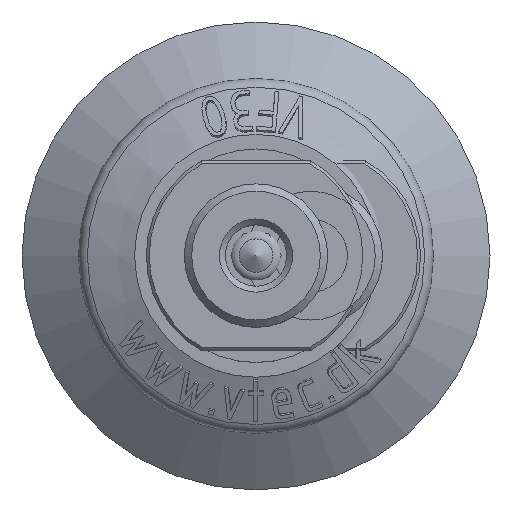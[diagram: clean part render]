
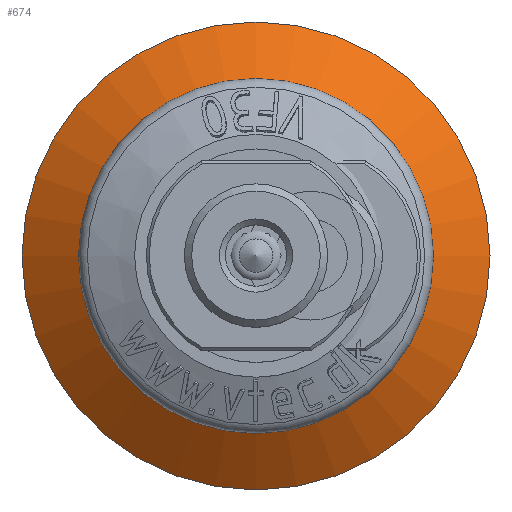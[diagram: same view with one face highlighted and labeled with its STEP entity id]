
A CAD part, top view. The second image highlights one B-rep face of the part: STEP entity #674.
In plain terms, the highlighted conical face has half-angle 53.66 degrees and reference radius 12.136 mm.
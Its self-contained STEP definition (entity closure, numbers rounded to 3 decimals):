
#674 = ADVANCED_FACE( '', ( #1093, #1094 ), #1095, .T. );
#1093 = FACE_OUTER_BOUND( '', #3626, .T. );
#1094 = FACE_BOUND( '', #3627, .T. );
#1095 = CONICAL_SURFACE( '', #3628, 12.136, 0.937 );
#3626 = EDGE_LOOP( '', ( #6112 ) );
#3627 = EDGE_LOOP( '', ( #6113 ) );
#3628 = AXIS2_PLACEMENT_3D( '', #6114, #6115, #6116 );
#6112 = ORIENTED_EDGE( '', *, *, #7410, .T. );
#6113 = ORIENTED_EDGE( '', *, *, #7411, .F. );
#6114 = CARTESIAN_POINT( '', ( 0., 0., -2.158 ) );
#6115 = DIRECTION( '', ( 0., 0., -1. ) );
#6116 = DIRECTION( '', ( -1., 0., 0. ) );
#7410 = EDGE_CURVE( '', #8239, #8239, #8240, .F. );
#7411 = EDGE_CURVE( '', #8241, #8241, #8242, .T. );
#8239 = VERTEX_POINT( '', #10698 );
#8240 = CIRCLE( '', #10699, 16. );
#8241 = VERTEX_POINT( '', #10700 );
#8242 = CIRCLE( '', #10701, 12.136 );
#10698 = CARTESIAN_POINT( '', ( -16., 0., -5. ) );
#10699 = AXIS2_PLACEMENT_3D( '', #11433, #11434, #11435 );
#10700 = CARTESIAN_POINT( '', ( 12.136, 0., -2.158 ) );
#10701 = AXIS2_PLACEMENT_3D( '', #11436, #11437, #11438 );
#11433 = CARTESIAN_POINT( '', ( 0., 0., -5. ) );
#11434 = DIRECTION( '', ( 0., 0., -1. ) );
#11435 = DIRECTION( '', ( -1., 0., 0. ) );
#11436 = CARTESIAN_POINT( '', ( 0., 0., -2.158 ) );
#11437 = DIRECTION( '', ( 0., 0., 1. ) );
#11438 = DIRECTION( '', ( 1., 0., 0. ) );
